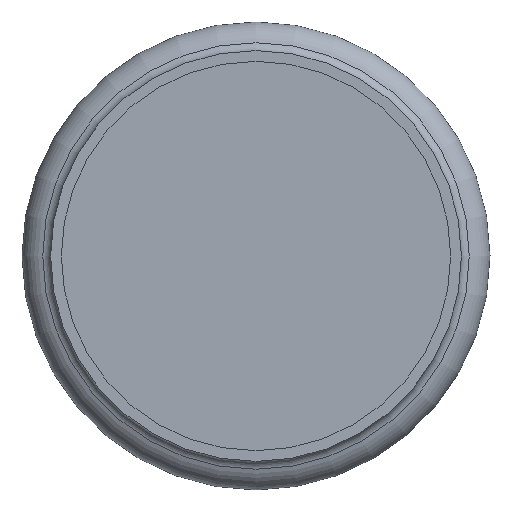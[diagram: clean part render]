
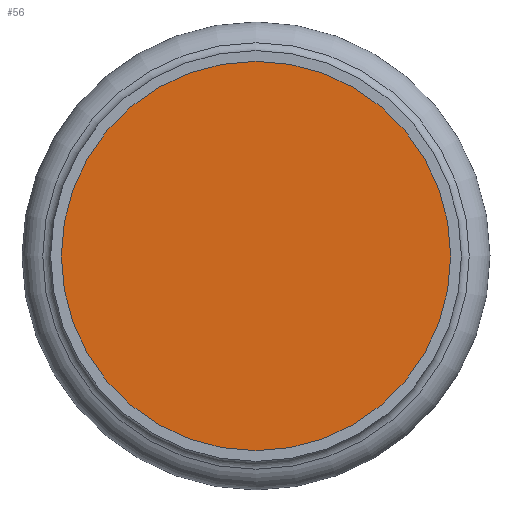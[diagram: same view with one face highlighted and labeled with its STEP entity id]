
A CAD part, front view. The second image highlights one B-rep face of the part: STEP entity #56.
In plain terms, the highlighted planar face has unit normal (0, -1, 0).
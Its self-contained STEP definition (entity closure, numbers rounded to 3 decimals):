
#56=ADVANCED_FACE('',(#97),#99,.T.);
#97=FACE_BOUND('',#98,.T.);
#98=EDGE_LOOP('',(#244));
#99=PLANE('',#100);
#100=AXIS2_PLACEMENT_3D('',#101,#102,#103);
#101=CARTESIAN_POINT('',(0.,-38.292,0.));
#102=DIRECTION('',(0.,-1.,0.));
#103=DIRECTION('',(0.,0.,-1.));
#244=ORIENTED_EDGE('',*,*,#277,.T.);
#277=EDGE_CURVE('',#297,#297,#298,.F.);
#297=VERTEX_POINT('',#339);
#298=CIRCLE('',#340,27.2);
#339=CARTESIAN_POINT('',(0.,-38.292,27.2));
#340=AXIS2_PLACEMENT_3D('',#341,#342,#343);
#341=CARTESIAN_POINT('',(0.,-38.292,0.));
#342=DIRECTION('',(0.,1.,0.));
#343=DIRECTION('',(0.,0.,1.));
